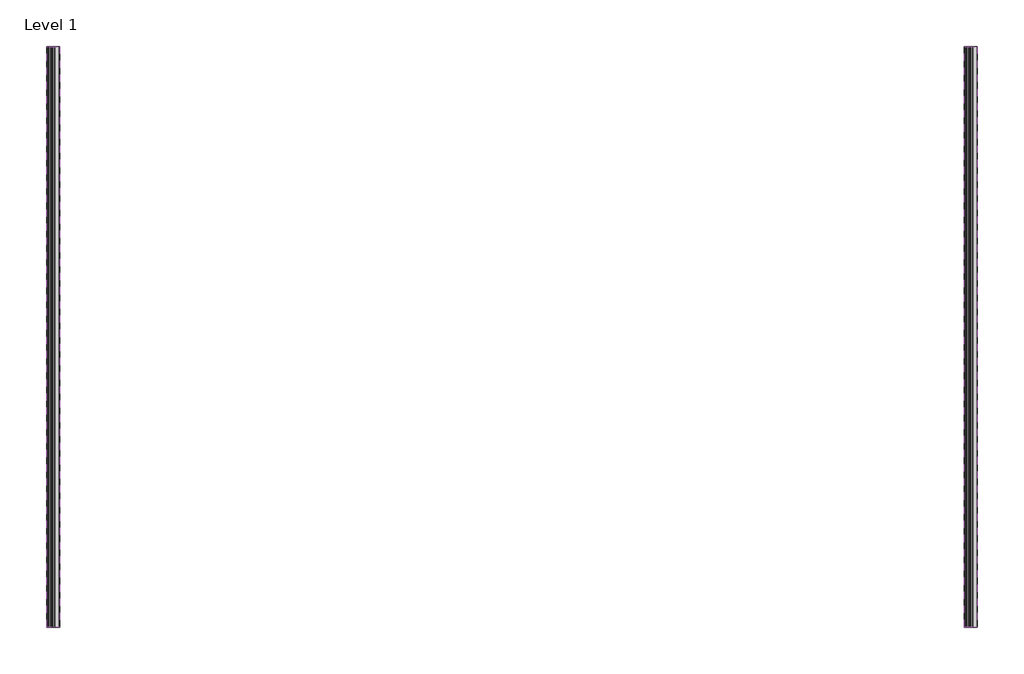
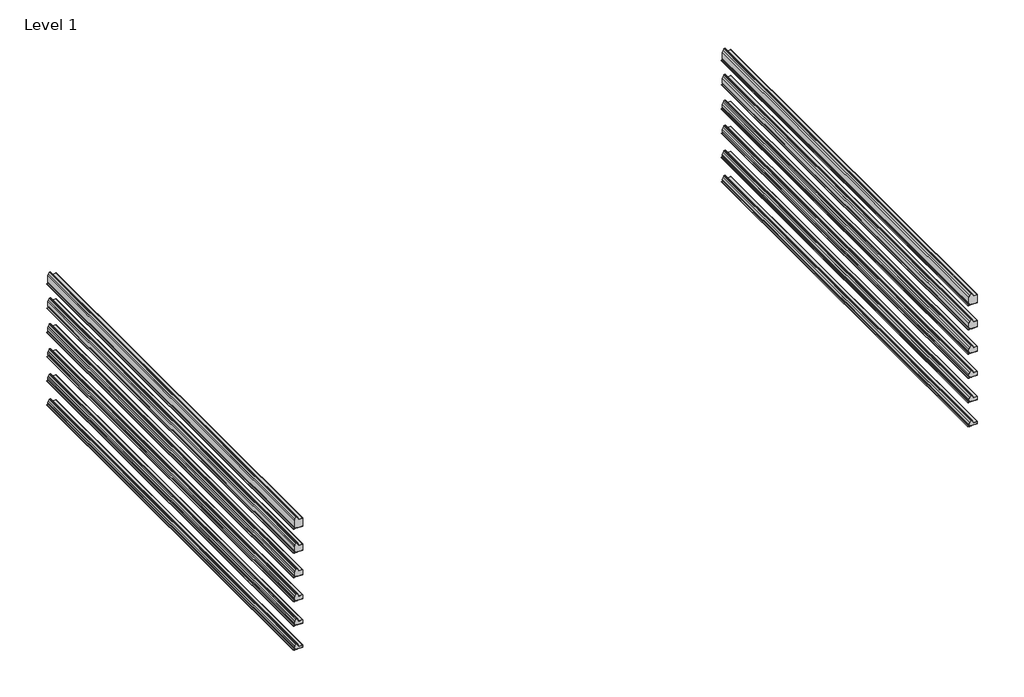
# One storey, incomplete: 12 plates.
"""IFC4 building model written with IfcOpenShell, lengths in millimetres."""

from ifc_helpers import new_model, si_unit, origin, place, context, project, spatial, transform, mapped, element, save
from components import plate_72f0a5d6, plate_fd8aca23, plate_abee4ffd, plate_0a1cbbb3, plate_074d3782, plate_1ca22edd

model = new_model("IFC4")

# Units and contexts
model_context = context("Model", 3, world=origin())
ifc_project = project(units=[si_unit("LENGTHUNIT", "METRE", prefix="MILLI")], contexts=[model_context])

# Site, building, storey
site = spatial("IfcSite", under=ifc_project)
building = spatial("IfcBuilding", under=site)
storey = spatial("IfcBuildingStorey", under=building, Name="Level 1", Elevation=0.0)

# Plates
placement = place(None, origin())
plate_shape = plate_72f0a5d6(model_context)
element("IfcPlate", 1, ObjectType="ACH_Panel cubierta 5 grecas-PUR-PIR_P5G : ACH_Panel cubierta 5 grecas-PUR-P5G_30mm", at=placement, inside=storey, context=model_context, shape_type="MappedRepresentation", body=[
    mapped(plate_shape, transform((-8968.7651938, -3830.5491567, 500.0), x_axis=(1.0, 0.0, 0.0), y_axis=(0.0, 0.0, -1.0), z_axis=(0.0, 1.0, 0.0))),
])
plate_2_shape = plate_fd8aca23(model_context)
element("IfcPlate", 2, ObjectType="ACH_Panel cubierta 5 grecas-PUR-PIR_P5G : ACH_Panel cubierta 5 grecas-PUR-P5G_40mm", at=placement, inside=storey, context=model_context, shape_type="MappedRepresentation", body=[
    mapped(plate_2_shape, transform((-8968.7651938, -3830.5491567, 800.0), x_axis=(1.0, 0.0, 0.0), y_axis=(0.0, 0.0, -1.0), z_axis=(0.0, 1.0, 0.0))),
])
plate_3_shape = plate_abee4ffd(model_context)
element("IfcPlate", 3, ObjectType="ACH_Panel cubierta 5 grecas-PUR-PIR_P5G : ACH_Panel cubierta 5 grecas-PUR-P5G_50mm", at=placement, inside=storey, context=model_context, shape_type="MappedRepresentation", body=[
    mapped(plate_3_shape, transform((-8968.7651938, -3830.5491567, 1100.0), x_axis=(1.0, 0.0, 0.0), y_axis=(0.0, 0.0, -1.0), z_axis=(0.0, 1.0, 0.0))),
])
plate_4_shape = plate_0a1cbbb3(model_context)
element("IfcPlate", 4, ObjectType="ACH_Panel cubierta 5 grecas-PUR-PIR_P5G : ACH_Panel cubierta 5 grecas-PUR-P5G_60mm", at=placement, inside=storey, context=model_context, shape_type="MappedRepresentation", body=[
    mapped(plate_4_shape, transform((-8968.7651938, -3830.5491567, 1400.0), x_axis=(1.0, 0.0, 0.0), y_axis=(0.0, 0.0, -1.0), z_axis=(0.0, 1.0, 0.0))),
])
plate_5_shape = plate_074d3782(model_context)
element("IfcPlate", 5, ObjectType="ACH_Panel cubierta 5 grecas-PUR-PIR_P5G : ACH_Panel cubierta 5 grecas-PUR-P5G_80mm", at=placement, inside=storey, context=model_context, shape_type="MappedRepresentation", body=[
    mapped(plate_5_shape, transform((-8968.7651938, -3830.5491567, 1700.0), x_axis=(1.0, 0.0, 0.0), y_axis=(0.0, 0.0, -1.0), z_axis=(0.0, 1.0, 0.0))),
])
plate_6_shape = plate_1ca22edd(model_context)
element("IfcPlate", 6, ObjectType="ACH_Panel cubierta 5 grecas-PUR-PIR_P5G : ACH_Panel cubierta 5 grecas-PUR-P5G_100mm", at=placement, inside=storey, context=model_context, shape_type="MappedRepresentation", body=[
    mapped(plate_6_shape, transform((-8968.7651938, -3830.5491567, 2000.0), x_axis=(1.0, 0.0, 0.0), y_axis=(0.0, 0.0, -1.0), z_axis=(0.0, 1.0, 0.0))),
])
element("IfcPlate", 7, ObjectType="ACH_Panel cubierta 5 grecas-PUR-PIR_P5G : ACH_Panel cubierta 5 grecas-PIR-P5G_30mm", at=placement, inside=storey, context=model_context, shape_type="MappedRepresentation", body=[
    mapped(plate_shape, transform((-1068.7651938, -3830.5491567, 500.0), x_axis=(1.0, 0.0, 0.0), y_axis=(0.0, 0.0, -1.0), z_axis=(0.0, 1.0, 0.0))),
])
element("IfcPlate", 8, ObjectType="ACH_Panel cubierta 5 grecas-PUR-PIR_P5G : ACH_Panel cubierta 5 grecas-PIR-P5G_40mm", at=placement, inside=storey, context=model_context, shape_type="MappedRepresentation", body=[
    mapped(plate_2_shape, transform((-1068.7651938, -3830.5491567, 800.0), x_axis=(1.0, 0.0, 0.0), y_axis=(0.0, 0.0, -1.0), z_axis=(0.0, 1.0, 0.0))),
])
element("IfcPlate", 9, ObjectType="ACH_Panel cubierta 5 grecas-PUR-PIR_P5G : ACH_Panel cubierta 5 grecas-PIR-P5G_50mm", at=placement, inside=storey, context=model_context, shape_type="MappedRepresentation", body=[
    mapped(plate_3_shape, transform((-1068.7651938, -3830.5491567, 1100.0), x_axis=(1.0, 0.0, 0.0), y_axis=(0.0, 0.0, -1.0), z_axis=(0.0, 1.0, 0.0))),
])
element("IfcPlate", 10, ObjectType="ACH_Panel cubierta 5 grecas-PUR-PIR_P5G : ACH_Panel cubierta 5 grecas-PIR-P5G_60mm", at=placement, inside=storey, context=model_context, shape_type="MappedRepresentation", body=[
    mapped(plate_4_shape, transform((-1068.7651938, -3830.5491567, 1400.0), x_axis=(1.0, 0.0, 0.0), y_axis=(0.0, 0.0, -1.0), z_axis=(0.0, 1.0, 0.0))),
])
element("IfcPlate", 11, ObjectType="ACH_Panel cubierta 5 grecas-PUR-PIR_P5G : ACH_Panel cubierta 5 grecas-PIR-P5G_80mm", at=placement, inside=storey, context=model_context, shape_type="MappedRepresentation", body=[
    mapped(plate_5_shape, transform((-1068.7651938, -3830.5491567, 1700.0), x_axis=(1.0, 0.0, 0.0), y_axis=(0.0, 0.0, -1.0), z_axis=(0.0, 1.0, 0.0))),
])
element("IfcPlate", 12, ObjectType="ACH_Panel cubierta 5 grecas-PUR-PIR_P5G : ACH_Panel cubierta 5 grecas-PIR-P5G_100mm", at=placement, inside=storey, context=model_context, shape_type="MappedRepresentation", body=[
    mapped(plate_6_shape, transform((-1068.7651938, -3830.5491567, 2000.0), x_axis=(1.0, 0.0, 0.0), y_axis=(0.0, 0.0, -1.0), z_axis=(0.0, 1.0, 0.0))),
])

save(model, "model.ifc")
